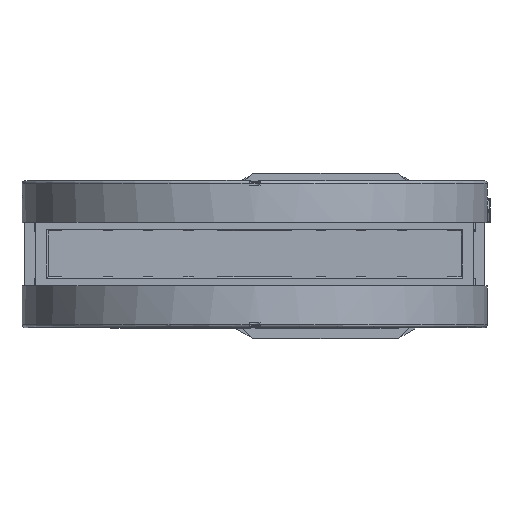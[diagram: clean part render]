
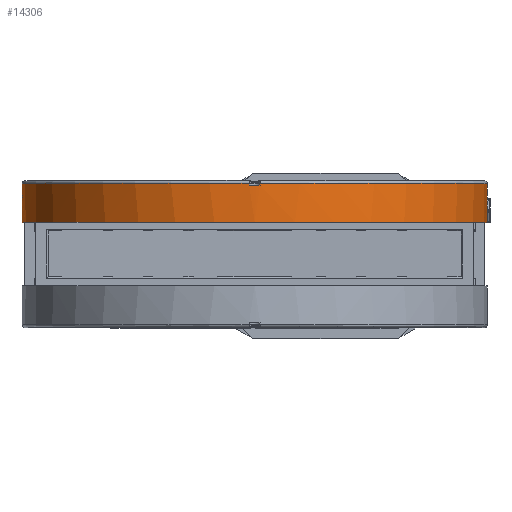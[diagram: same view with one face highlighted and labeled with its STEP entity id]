
A CAD part, top view. The second image highlights one B-rep face of the part: STEP entity #14306.
In plain terms, the highlighted cylindrical face has radius 126.6 mm (diameter 253.2 mm), a full revolution.
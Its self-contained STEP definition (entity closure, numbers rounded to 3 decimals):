
#6536=LINE('',#52005,#9151);
#6537=LINE('',#52010,#9152);
#6538=LINE('',#52014,#9153);
#6539=LINE('',#52018,#9154);
#9151=VECTOR('',#41224,1.);
#9152=VECTOR('',#41227,1.);
#9153=VECTOR('',#41230,1.);
#9154=VECTOR('',#41233,1.);
#10762=ELLIPSE('',#36072,223.466,126.6);
#10763=ELLIPSE('',#36073,223.466,126.6);
#10764=ELLIPSE('',#36080,223.466,126.6);
#10765=ELLIPSE('',#36081,223.466,126.6);
#14306=ADVANCED_FACE('BCT_REF_61925',(#16189,#16190,#16191,#16192),#15265,
 .T.);
#15265=CYLINDRICAL_SURFACE('',#36083,126.6);
#16189=FACE_BOUND('',#17951,.T.);
#16190=FACE_BOUND('',#17952,.T.);
#16191=FACE_BOUND('',#17953,.T.);
#16192=FACE_BOUND('',#17954,.T.);
#17951=EDGE_LOOP('',(#22837,#22838,#22839));
#17952=EDGE_LOOP('',(#22840,#22841,#22842,#22843,#22844,#22845,#22846,#22847));
#17953=EDGE_LOOP('',(#22848));
#17954=EDGE_LOOP('',(#22849,#22850,#22851));
#22837=ORIENTED_EDGE('',*,*,#31662,.T.);
#22838=ORIENTED_EDGE('',*,*,#31663,.T.);
#22839=ORIENTED_EDGE('',*,*,#31664,.T.);
#22840=ORIENTED_EDGE('',*,*,#31665,.T.);
#22841=ORIENTED_EDGE('',*,*,#31666,.T.);
#22842=ORIENTED_EDGE('',*,*,#31667,.F.);
#22843=ORIENTED_EDGE('',*,*,#31668,.F.);
#22844=ORIENTED_EDGE('',*,*,#31669,.T.);
#22845=ORIENTED_EDGE('',*,*,#31670,.T.);
#22846=ORIENTED_EDGE('',*,*,#31671,.F.);
#22847=ORIENTED_EDGE('',*,*,#31672,.T.);
#22848=ORIENTED_EDGE('',*,*,#31673,.T.);
#22849=ORIENTED_EDGE('',*,*,#31674,.F.);
#22850=ORIENTED_EDGE('',*,*,#31675,.F.);
#22851=ORIENTED_EDGE('',*,*,#31676,.F.);
#28267=VERTEX_POINT('',#52000);
#28268=VERTEX_POINT('',#52001);
#28269=VERTEX_POINT('',#52003);
#28270=VERTEX_POINT('',#52006);
#28271=VERTEX_POINT('',#52007);
#28272=VERTEX_POINT('',#52009);
#28273=VERTEX_POINT('',#52011);
#28274=VERTEX_POINT('',#52013);
#28275=VERTEX_POINT('',#52015);
#28276=VERTEX_POINT('',#52017);
#28277=VERTEX_POINT('',#52019);
#28278=VERTEX_POINT('',#52022);
#28279=VERTEX_POINT('',#52024);
#28280=VERTEX_POINT('',#52025);
#28281=VERTEX_POINT('',#52027);
#31662=EDGE_CURVE('',#28267,#28268,#10762,.T.);
#31663=EDGE_CURVE('',#28268,#28269,#10763,.T.);
#31664=EDGE_CURVE('',#28269,#28267,#34276,.T.);
#31665=EDGE_CURVE('',#28270,#28271,#6536,.T.);
#31666=EDGE_CURVE('',#28271,#28272,#34277,.T.);
#31667=EDGE_CURVE('',#28273,#28272,#6537,.T.);
#31668=EDGE_CURVE('',#28274,#28273,#34278,.T.);
#31669=EDGE_CURVE('',#28274,#28275,#6538,.T.);
#31670=EDGE_CURVE('',#28275,#28276,#34279,.T.);
#31671=EDGE_CURVE('',#28277,#28276,#6539,.T.);
#31672=EDGE_CURVE('',#28277,#28270,#34280,.T.);
#31673=EDGE_CURVE('',#28278,#28278,#34281,.T.);
#31674=EDGE_CURVE('',#28279,#28280,#10764,.T.);
#31675=EDGE_CURVE('',#28281,#28279,#10765,.T.);
#31676=EDGE_CURVE('',#28280,#28281,#34282,.T.);
#34276=CIRCLE('',#36074,126.6);
#34277=CIRCLE('',#36075,126.6);
#34278=CIRCLE('',#36076,126.6);
#34279=CIRCLE('',#36077,126.6);
#34280=CIRCLE('',#36078,126.6);
#34281=CIRCLE('',#36079,126.6);
#34282=CIRCLE('',#36082,126.6);
#36072=AXIS2_PLACEMENT_3D('',#51999,#41218,#41219);
#36073=AXIS2_PLACEMENT_3D('',#52002,#41220,#41221);
#36074=AXIS2_PLACEMENT_3D('',#52004,#41222,#41223);
#36075=AXIS2_PLACEMENT_3D('',#52008,#41225,#41226);
#36076=AXIS2_PLACEMENT_3D('',#52012,#41228,#41229);
#36077=AXIS2_PLACEMENT_3D('',#52016,#41231,#41232);
#36078=AXIS2_PLACEMENT_3D('',#52020,#41234,#41235);
#36079=AXIS2_PLACEMENT_3D('',#52021,#41236,#41237);
#36080=AXIS2_PLACEMENT_3D('',#52023,#41238,#41239);
#36081=AXIS2_PLACEMENT_3D('',#52026,#41240,#41241);
#36082=AXIS2_PLACEMENT_3D('',#52028,#41242,#41243);
#36083=AXIS2_PLACEMENT_3D('',#52029,#41244,#41245);
#41218=DIRECTION('',(0.,-0.567,0.824));
#41219=DIRECTION('',(0.,0.824,0.567));
#41220=DIRECTION('',(0.,-0.567,-0.824));
#41221=DIRECTION('',(0.,0.824,-0.567));
#41222=DIRECTION('',(0.,1.,0.));
#41223=DIRECTION('',(0.,0.,1.));
#41224=DIRECTION('',(0.,1.,0.));
#41225=DIRECTION('',(0.,-1.,0.));
#41226=DIRECTION('',(0.,0.,1.));
#41227=DIRECTION('',(0.,1.,0.));
#41228=DIRECTION('',(0.,1.,0.));
#41229=DIRECTION('',(0.,0.,-1.));
#41230=DIRECTION('',(0.,1.,0.));
#41231=DIRECTION('',(0.,-1.,0.));
#41232=DIRECTION('',(0.,0.,1.));
#41233=DIRECTION('',(0.,1.,0.));
#41234=DIRECTION('',(0.,-1.,0.));
#41235=DIRECTION('',(0.,0.,-1.));
#41236=DIRECTION('',(0.,1.,0.));
#41237=DIRECTION('',(0.,0.,-1.));
#41238=DIRECTION('',(0.,0.567,0.824));
#41239=DIRECTION('',(0.,0.824,-0.567));
#41240=DIRECTION('',(0.,0.567,-0.824));
#41241=DIRECTION('',(0.,0.824,0.567));
#41242=DIRECTION('',(0.,-1.,0.));
#41243=DIRECTION('',(0.,0.,-1.));
#41244=DIRECTION('',(0.,1.,0.));
#41245=DIRECTION('',(0.,0.,-1.));
#51999=CARTESIAN_POINT('',(0.,27.95,412.));
#52000=CARTESIAN_POINT('',(-126.57,31.95,414.75));
#52001=CARTESIAN_POINT('',(-126.6,27.95,412.));
#52002=CARTESIAN_POINT('',(0.,27.95,412.));
#52003=CARTESIAN_POINT('',(-126.57,31.95,409.25));
#52004=CARTESIAN_POINT('',(0.,31.95,412.));
#52005=CARTESIAN_POINT('',(3.,37.45,285.436));
#52006=CARTESIAN_POINT('',(3.,37.45,285.436));
#52007=CARTESIAN_POINT('',(3.,38.45,285.436));
#52008=CARTESIAN_POINT('',(0.,38.45,412.));
#52009=CARTESIAN_POINT('',(3.,38.45,538.564));
#52010=CARTESIAN_POINT('',(3.,37.45,538.564));
#52011=CARTESIAN_POINT('',(3.,37.45,538.564));
#52012=CARTESIAN_POINT('',(0.,37.45,412.));
#52013=CARTESIAN_POINT('',(-3.,37.45,538.564));
#52014=CARTESIAN_POINT('',(-3.,37.45,538.564));
#52015=CARTESIAN_POINT('',(-3.,38.45,538.564));
#52016=CARTESIAN_POINT('',(0.,38.45,412.));
#52017=CARTESIAN_POINT('',(-3.,38.45,285.436));
#52018=CARTESIAN_POINT('',(-3.,37.45,285.436));
#52019=CARTESIAN_POINT('',(-3.,37.45,285.436));
#52020=CARTESIAN_POINT('',(0.,37.45,412.));
#52021=CARTESIAN_POINT('',(0.,17.25,412.));
#52022=CARTESIAN_POINT('',(0.,17.25,285.4));
#52023=CARTESIAN_POINT('',(0.,27.95,412.));
#52024=CARTESIAN_POINT('',(126.6,27.95,412.));
#52025=CARTESIAN_POINT('',(126.57,31.95,409.25));
#52026=CARTESIAN_POINT('',(0.,27.95,412.));
#52027=CARTESIAN_POINT('',(126.57,31.95,414.75));
#52028=CARTESIAN_POINT('',(0.,31.95,412.));
#52029=CARTESIAN_POINT('',(0.,38.65,412.));
